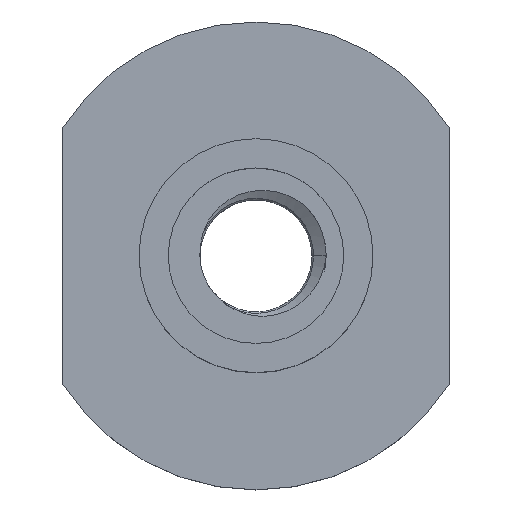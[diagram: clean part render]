
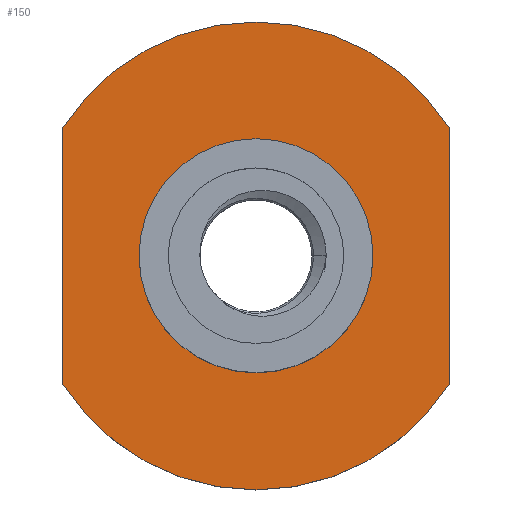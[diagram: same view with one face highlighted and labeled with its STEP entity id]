
A CAD part, top view. The second image highlights one B-rep face of the part: STEP entity #150.
In plain terms, the highlighted planar face has unit normal (0, 0, 1).
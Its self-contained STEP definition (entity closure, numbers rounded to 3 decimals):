
#24 = VERTEX_POINT('',#25);
#25 = CARTESIAN_POINT('',(8.25,5.5,2.8));
#31 = EDGE_CURVE('',#24,#32,#34,.T.);
#32 = VERTEX_POINT('',#33);
#33 = CARTESIAN_POINT('',(-8.25,5.5,2.8));
#34 = CIRCLE('',#35,9.814);
#35 = AXIS2_PLACEMENT_3D('',#36,#37,#38);
#36 = CARTESIAN_POINT('',(0.,0.184,2.8));
#37 = DIRECTION('',(0.,0.,1.));
#38 = DIRECTION('',(1.,0.,0.));
#64 = EDGE_CURVE('',#24,#65,#67,.T.);
#65 = VERTEX_POINT('',#66);
#66 = CARTESIAN_POINT('',(8.25,-5.5,2.8));
#67 = LINE('',#68,#69);
#68 = CARTESIAN_POINT('',(8.25,5.5,2.8));
#69 = VECTOR('',#70,1.);
#70 = DIRECTION('',(0.,-1.,0.));
#95 = EDGE_CURVE('',#32,#96,#98,.T.);
#96 = VERTEX_POINT('',#97);
#97 = CARTESIAN_POINT('',(-8.25,-5.5,2.8));
#98 = LINE('',#99,#100);
#99 = CARTESIAN_POINT('',(-8.25,5.5,2.8));
#100 = VECTOR('',#101,1.);
#101 = DIRECTION('',(0.,-1.,0.));
#150 = ADVANCED_FACE('',(#151,#163),#174,.T.);
#151 = FACE_BOUND('',#152,.T.);
#152 = EDGE_LOOP('',(#153,#154,#155,#162));
#153 = ORIENTED_EDGE('',*,*,#31,.T.);
#154 = ORIENTED_EDGE('',*,*,#95,.T.);
#155 = ORIENTED_EDGE('',*,*,#156,.T.);
#156 = EDGE_CURVE('',#96,#65,#157,.T.);
#157 = CIRCLE('',#158,9.814);
#158 = AXIS2_PLACEMENT_3D('',#159,#160,#161);
#159 = CARTESIAN_POINT('',(0.,-0.184,2.8));
#160 = DIRECTION('',(0.,0.,1.));
#161 = DIRECTION('',(1.,0.,0.));
#162 = ORIENTED_EDGE('',*,*,#64,.F.);
#163 = FACE_BOUND('',#164,.T.);
#164 = EDGE_LOOP('',(#165));
#165 = ORIENTED_EDGE('',*,*,#166,.F.);
#166 = EDGE_CURVE('',#167,#167,#169,.T.);
#167 = VERTEX_POINT('',#168);
#168 = CARTESIAN_POINT('',(5.,0.,2.8));
#169 = CIRCLE('',#170,5.);
#170 = AXIS2_PLACEMENT_3D('',#171,#172,#173);
#171 = CARTESIAN_POINT('',(0.,0.,2.8));
#172 = DIRECTION('',(0.,0.,1.));
#173 = DIRECTION('',(1.,0.,0.));
#174 = PLANE('',#175);
#175 = AXIS2_PLACEMENT_3D('',#176,#177,#178);
#176 = CARTESIAN_POINT('',(0.,0.,2.8));
#177 = DIRECTION('',(0.,0.,1.));
#178 = DIRECTION('',(1.,0.,0.));
